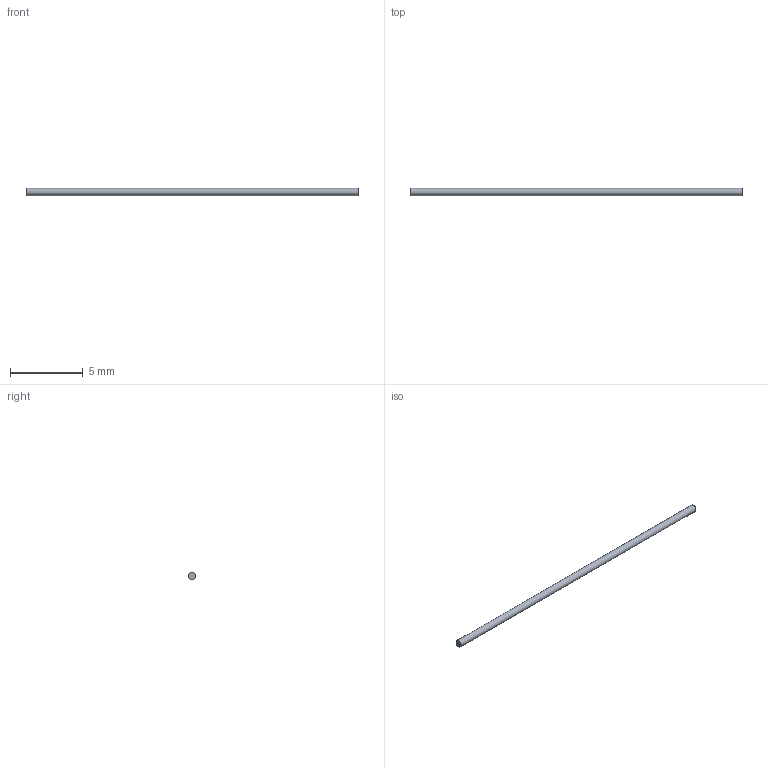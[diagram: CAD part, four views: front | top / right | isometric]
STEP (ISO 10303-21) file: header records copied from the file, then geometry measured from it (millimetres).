
FILE_DESCRIPTION(('FreeCAD Model'),'2;1');
FILE_NAME('Open CASCADE Shape Model','2026-04-07T19:07:43',('FreeCAD'),( 'FreeCAD'),'Open CASCADE STEP processor 7.8','FreeCAD','Unknown');
FILE_SCHEMA(('AUTOMOTIVE_DESIGN { 1 0 10303 214 1 1 1 1 }'));
Length unit declared in the file: millimetre
Products named in the file (1): Open CASCADE STEP translator 7.8 24
Bounding box: 22.86 x 0.5 x 0.5 mm (x, y, z)
Volume: 4.5 mm3; surface area: 36.3 mm2
Topology: 1 solids, 1 shells, 3 faces, 3 edges, 2 vertices
Faces by surface type: plane 2, cylinder 1
Full cylindrical faces by diameter (mm): 0.5 x1
Entity records: 69 total; most frequent: DIRECTION 13, CARTESIAN_POINT 9, AXIS2_PLACEMENT_3D 6, ORIENTED_EDGE 6, ADVANCED_FACE 3, FACE_BOUND 3, EDGE_LOOP 3, EDGE_CURVE 3
